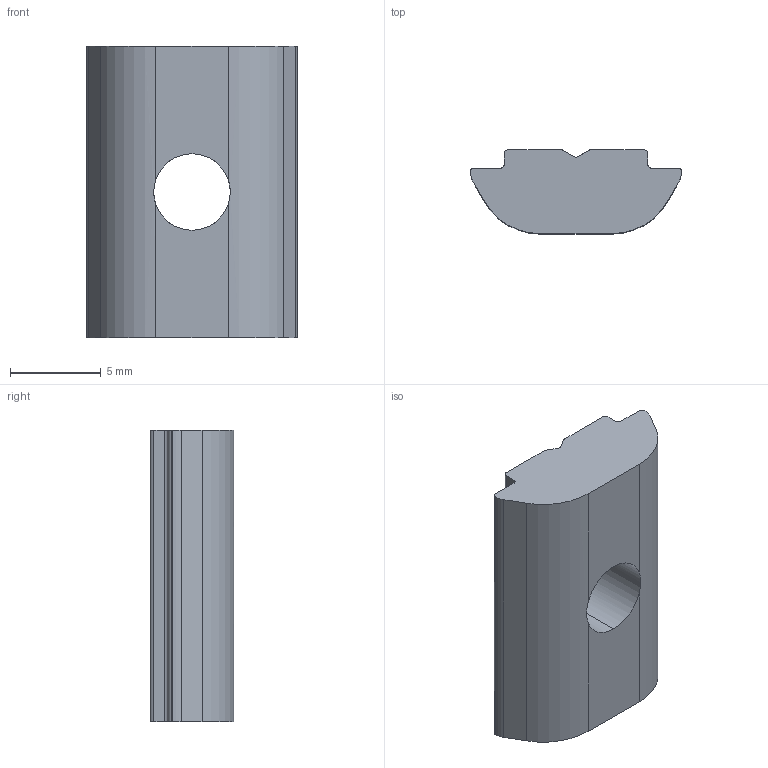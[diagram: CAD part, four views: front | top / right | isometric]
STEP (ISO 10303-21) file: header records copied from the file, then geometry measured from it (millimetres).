
FILE_DESCRIPTION (( 'STEP AP214' ), '1' );
FILE_NAME ('096315.STEP', '2014-08-18T08:18:07', ( '' ), ( '' ), 'SwSTEP 2.0', 'SolidWorks 2014', '' );
FILE_SCHEMA (( 'AUTOMOTIVE_DESIGN' ));
Length unit declared in the file: millimetre
Products named in the file (1): 096315
Bounding box: 11.6 x 4.6 x 16 mm (x, y, z)
Volume: 616.7 mm3; surface area: 575.5 mm2
Topology: 1 solids, 1 shells, 36 faces, 108 edges, 72 vertices
Faces by surface type: cylinder 18, plane 18
Entity records: 1298 total; most frequent: CARTESIAN_POINT 263, ORIENTED_EDGE 216, DIRECTION 200, EDGE_CURVE 108, VERTEX_POINT 72, AXIS2_PLACEMENT_3D 69, LINE 62, VECTOR 62
